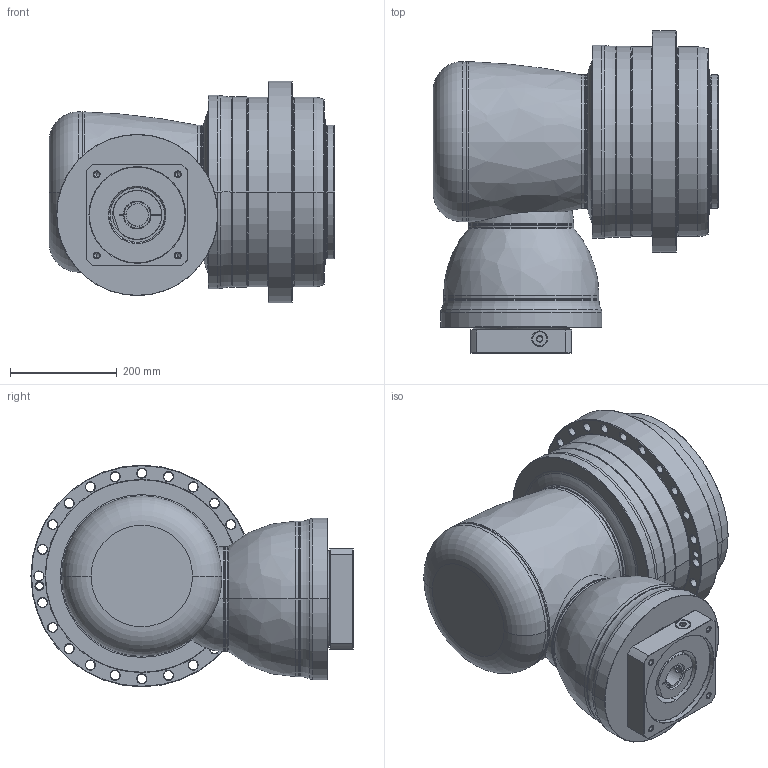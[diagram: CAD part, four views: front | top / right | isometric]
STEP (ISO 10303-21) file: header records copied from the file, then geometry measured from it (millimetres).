
FILE_DESCRIPTION((''),'2;1');
FILE_NAME('APK355_2ST_42-P0409A00201_ASM','2018-07-02T',('D00080'),(''),'PRO/ENGINEER BY PARAMETRIC TECHNOLOGY CORPORATION, 2008170','PRO/ENGINEER BY PARAMETRIC TECHNOLOGY CORPORATION, 2008170','');
FILE_SCHEMA(('CONFIG_CONTROL_DESIGN'));
Length unit declared in the file: millimetre
Products named in the file (13): P1008800002; P1315800001; P1007801001; P1318810201; P1831100001; P0276101003; P0357101103; P1222100001; P0503A00012; P0912802001; P0409A00201; 21711422019; APK355_2ST_42-P0409A00201_ASM
Assembly tree (12 placements, depth 2):
  APK355_2ST_42-P0409A00201_ASM
    P1008800002
    P1315800001
    P1007801001
    P1318810201
    P1831100001
    P0276101003
    P0357101103
    P1222100001
    P0503A00012
    P0912802001
    P0409A00201
    21711422019
Bounding box: 535 x 603 x 415 mm (x, y, z)
Volume: 59124887.1 mm3; surface area: 2583940.3 mm2
Topology: 13 solids, 40 shells, 798 faces, 1809 edges, 1084 vertices
Faces by surface type: cylinder 320, cone 236, plane 130, torus 90, bspline 20, sphere 2
Entity records: 27552 total; most frequent: CARTESIAN_POINT 8933, DIRECTION 4310, ORIENTED_EDGE 3420, AXIS2_PLACEMENT_3D 1843, EDGE_CURVE 1765, VERTEX_POINT 1084, CIRCLE 1028, EDGE_LOOP 957
